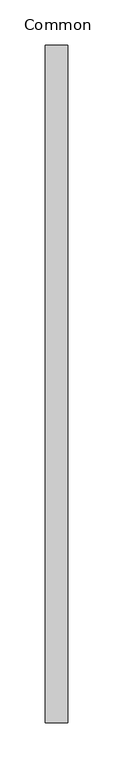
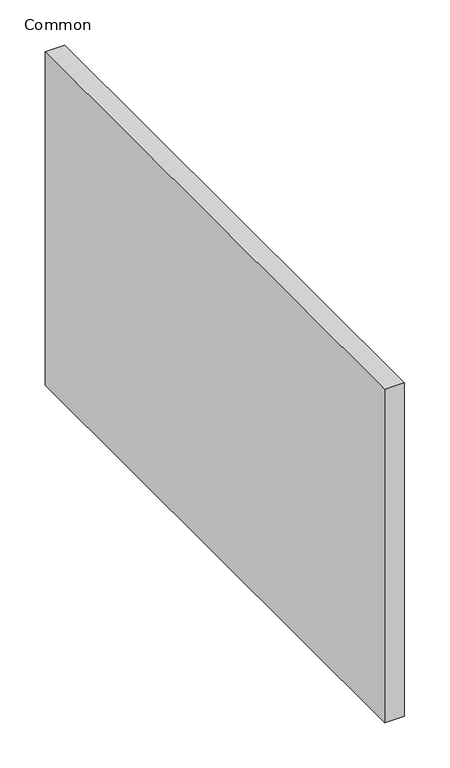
"""IFC4 building model written with IfcOpenShell, lengths in millimetres: duct fitting geometry, 081_角型エンドキャップ : Common."""

import ifcopenshell
import ifcopenshell.guid

model = None  # the IFC model being written
_history = None  # IfcOwnerHistory: only IFC2X3 demands one
_inside = {}  # id of a spatial element -> (the spatial element, [elements in it])
_under = {}  # id of a project, library or spatial element -> (it, [spatial elements below it])
_declared = {}  # id of a project -> (the project, [libraries it declares])
_typed = {}  # id of a type object -> (the type object, [elements of that type])
_made_of = {}  # id of a material, layer set ... -> (it, [elements and type objects made of it])


def new_model(schema):
    """Start an empty IFC model of exactly this schema.

    Asked for "IFC4X3", IfcOpenShell would pick the latest addendum, in which some entities
    have other attributes; the version numbers below select the first issue.
    IFC2X3 requires an IfcOwnerHistory on every rooted entity: one is made here for all.
    """
    global model, _history
    if schema == "IFC4X3":
        model = ifcopenshell.file(schema_version=(4, 3, 0, 0))
    else:
        model = ifcopenshell.file(schema=schema)
    _inside.clear()
    _under.clear()
    _declared.clear()
    _typed.clear()
    _made_of.clear()
    _history = None
    if model.schema == "IFC2X3":
        org = make("IfcOrganization", Name="unknown")
        user = make(
            "IfcPersonAndOrganization",
            ThePerson=make("IfcPerson", FamilyName="unknown"),
            TheOrganization=org,
        )
        app = make(
            "IfcApplication",
            ApplicationDeveloper=org,
            Version="unknown",
            ApplicationFullName="unknown",
            ApplicationIdentifier="unknown",
        )
        _history = make(
            "IfcOwnerHistory",
            OwningUser=user,
            OwningApplication=app,
            ChangeAction="ADDED",
            CreationDate=0,
        )
    return model


def make(cls, **values):
    """One entity of the class cls with the attributes given. An attribute that is None is left unset."""
    return model.create_entity(
        cls, **{name: value for name, value in values.items() if value is not None}
    )


def rooted(cls, **values):
    """An entity with a GlobalId (a new one), such as an element, a storey or a relation."""
    return make(cls, GlobalId=ifcopenshell.guid.new(), OwnerHistory=_history, **values)


def si_unit(unit_type, name, prefix=None):
    """IfcSIUnit, for example si_unit("LENGTHUNIT", "METRE", prefix="MILLI")."""
    return make("IfcSIUnit", UnitType=unit_type, Prefix=prefix, Name=name)


def assignment(units):
    """IfcUnitAssignment: the units of a project."""
    return None if units is None else make("IfcUnitAssignment", Units=units)


def point(xyz):
    """IfcCartesianPoint."""
    return None if xyz is None else make("IfcCartesianPoint", Coordinates=xyz)


def direction(xyz):
    """IfcDirection."""
    return None if xyz is None else make("IfcDirection", DirectionRatios=xyz)


def frame(location, z_axis=None, x_axis=None):
    """IfcAxis2Placement3D, a coordinate frame: its origin and axes. An axis left out is left unset."""
    return make(
        "IfcAxis2Placement3D",
        Location=point(location),
        Axis=direction(z_axis),
        RefDirection=direction(x_axis),
    )


def origin():
    """The frame at (0, 0, 0) with its axes left unset."""
    return frame((0.0, 0.0, 0.0))


def place(relative_to, where):
    """IfcLocalPlacement: puts the frame where relative to a parent placement (None: the world)."""
    return make(
        "IfcLocalPlacement", PlacementRelTo=relative_to, RelativePlacement=where
    )


def context(
    kind, dimensions, precision=None, world=None, true_north=None, identifier=None
):
    """IfcGeometricRepresentationContext, for example the 3D "Model" context."""
    return make(
        "IfcGeometricRepresentationContext",
        ContextIdentifier=identifier,
        ContextType=kind,
        CoordinateSpaceDimension=dimensions,
        Precision=precision,
        WorldCoordinateSystem=world,
        TrueNorth=true_north,
    )


def project(units=None, contexts=None):
    """IfcProject with its units and contexts."""
    return rooted(
        "IfcProject",
        Name="project",
        RepresentationContexts=contexts,
        UnitsInContext=assignment(units),
    )


def spatial(cls, under=None, at=None, **own):
    """A site, building, storey or space (cls), placed at a placement, below another one or the project."""
    s = rooted(cls, ObjectPlacement=at, **own)
    if under is not None:
        _under.setdefault(under.id(), (under, []))[1].append(s)
    return s


def polyline(points):
    """IfcPolyline through the points."""
    return make("IfcPolyline", Points=[point(p) for p in points])


def outline(outer, holes=None, kind="AREA"):
    """IfcArbitraryClosedProfileDef: a profile drawn as a closed curve; with holes, ...WithVoids."""
    if holes is None:
        return make("IfcArbitraryClosedProfileDef", ProfileType=kind, OuterCurve=outer)
    return make(
        "IfcArbitraryProfileDefWithVoids",
        ProfileType=kind,
        OuterCurve=outer,
        InnerCurves=holes,
    )


def extrude(swept, where, along, depth):
    """IfcExtrudedAreaSolid: the profile swept, set in the frame where, extruded along a direction by depth."""
    return make(
        "IfcExtrudedAreaSolid",
        SweptArea=swept,
        Position=where,
        ExtrudedDirection=direction(along),
        Depth=depth,
    )


def shape(context_of_items, identifier, shape_type, items):
    """IfcShapeRepresentation: the items that make up one representation, for example the "Body"."""
    return make(
        "IfcShapeRepresentation",
        ContextOfItems=context_of_items,
        RepresentationIdentifier=identifier,
        RepresentationType=shape_type,
        Items=items,
    )


def source(mapping_origin, context_of_items, identifier, shape_type, items):
    """IfcRepresentationMap: a shape defined once, which mapped items show again and again."""
    return make(
        "IfcRepresentationMap",
        MappingOrigin=mapping_origin,
        MappedRepresentation=shape(context_of_items, identifier, shape_type, items),
    )


def transform(
    local_origin,
    x_axis=None,
    y_axis=None,
    z_axis=None,
    scale=None,
    scale2=None,
    scale3=None,
    uniform=True,
):
    """IfcCartesianTransformationOperator3D, or its non-uniform kind. x_axis, y_axis, z_axis: its Axis1, 2, 3."""
    if uniform:
        return make(
            "IfcCartesianTransformationOperator3D",
            Axis1=direction(x_axis),
            Axis2=direction(y_axis),
            LocalOrigin=point(local_origin),
            Scale=scale,
            Axis3=direction(z_axis),
        )
    return make(
        "IfcCartesianTransformationOperator3DnonUniform",
        Axis1=direction(x_axis),
        Axis2=direction(y_axis),
        LocalOrigin=point(local_origin),
        Scale=scale,
        Axis3=direction(z_axis),
        Scale2=scale2,
        Scale3=scale3,
    )


def mapped(mapping_source, mapping_target):
    """IfcMappedItem: shows the shape of a source again, moved by a transform."""
    return make(
        "IfcMappedItem", MappingSource=mapping_source, MappingTarget=mapping_target
    )


def made_of(thing, what):
    """Note that an element or type object is made of a material, layer set ...; save() writes the relation."""
    if what is not None:
        _made_of.setdefault(what.id(), (what, []))[1].append(thing)
    return thing


def element(
    cls,
    number,
    at=None,
    inside=None,
    cuts=None,
    type_object=None,
    material=None,
    context=None,
    identifier="Body",
    shape_type=None,
    held_by="IfcProductDefinitionShape",
    body=None,
    shapes=None,
    **own,
):
    """One element of the class cls, such as IfcWall. Its Tag is "e" and its number.

    at: its placement. inside: the storey or other place that contains it. cuts: it is an
    opening in that element (IfcRelVoidsElement). A single representation is given by context,
    identifier, shape_type and body (its items); several are given by shapes. held_by: the class
    of the entity that holds the representations. save() writes the other relations.
    """
    e = rooted(cls, Tag="e%d" % number, ObjectPlacement=at, **own)
    if body is not None:
        shapes = [shape(context, identifier, shape_type, body)]
    if shapes is not None:
        e.Representation = make(held_by, Representations=shapes)
    if inside is not None:
        _inside.setdefault(inside.id(), (inside, []))[1].append(e)
    if cuts is not None:
        rooted(
            "IfcRelVoidsElement", RelatingBuildingElement=cuts, RelatedOpeningElement=e
        )
    if type_object is not None:
        _typed.setdefault(type_object.id(), (type_object, []))[1].append(e)
    return made_of(e, material)


def aggregate(whole, parts):
    """IfcRelAggregates: a whole, such as a stair, and the parts it consists of."""
    return rooted("IfcRelAggregates", RelatingObject=whole, RelatedObjects=parts)


def save(model, path):
    """Write the relations noted so far, then the file.

    IfcRelAggregates (storeys below a building ...), IfcRelContainedInSpatialStructure (elements
    in a storey), IfcRelDefinesByType, IfcRelAssociatesMaterial and IfcRelDeclares: one each for
    every whole, place, type object, material and project.
    """
    for whole, parts in _under.values():
        aggregate(whole, parts)
    for where, things in _inside.values():
        rooted(
            "IfcRelContainedInSpatialStructure",
            RelatedElements=things,
            RelatingStructure=where,
        )
    for kind, things in _typed.values():
        rooted("IfcRelDefinesByType", RelatedObjects=things, RelatingType=kind)
    for what, things in _made_of.values():
        rooted("IfcRelAssociatesMaterial", RelatedObjects=things, RelatingMaterial=what)
    for by, libraries in _declared.values():
        rooted("IfcRelDeclares", RelatingContext=by, RelatedDefinitions=libraries)
    model.write(path)


def common_52e6201f(model_context):
    return source(origin(), model_context, "Body", "SweptSolid", [
        extrude(outline(polyline([(0.0, -375.0), (0.0, 375.0), (25.0, 375.0), (25.0, -375.0), (0.0, -375.0)])), frame((0.0, 0.0, -225.0), z_axis=(0.0, 0.0, 1.0), x_axis=(1.0, 0.0, 0.0)), (0.0, 0.0, 1.0), 450.0),
    ])


if __name__ == "__main__":
    model = new_model("IFC4")
    model_context = context("Model", 3, world=origin())
    ifc_project = project(units=[si_unit("LENGTHUNIT", "METRE", prefix="MILLI")], contexts=[model_context])
    site = spatial("IfcSite", under=ifc_project)
    building = spatial("IfcBuilding", under=site)
    placement = place(None, origin())
    common_shape = common_52e6201f(model_context)
    element("IfcDuctFitting", 1, ObjectType="081_角型エンドキャップ : Common", at=placement, inside=building, context=model_context, shape_type="MappedRepresentation", body=[
        mapped(common_shape, transform((0.0, 0.0, 0.0), x_axis=(1.0, 0.0, 0.0), y_axis=(0.0, 1.0, 0.0), z_axis=(0.0, 0.0, 1.0))),
    ])
    save(model, "model.ifc")
